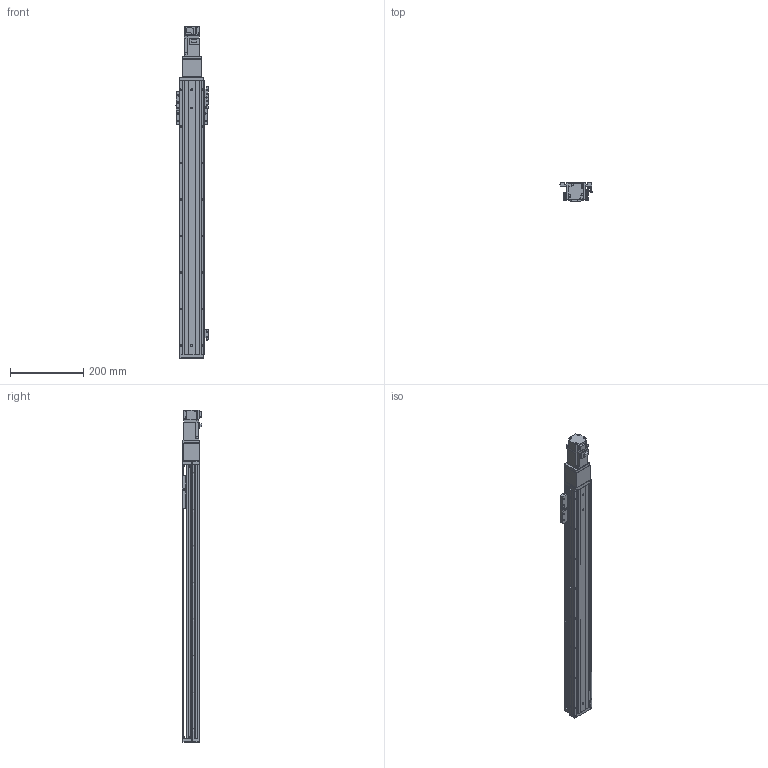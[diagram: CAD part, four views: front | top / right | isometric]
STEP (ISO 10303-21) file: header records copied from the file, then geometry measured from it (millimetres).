
FILE_DESCRIPTION (( 'STEP AP203' ), '1' );
FILE_NAME ('KTHAL60-600-BC-M10-C4L.step', '2022-03-19T08:35:41', ( '微软用户' ), ( '微软中国' ), 'SwSTEP 2.0', 'SolidWorks 2020', '' );
FILE_SCHEMA (( 'CONFIG_CONTROL_DESIGN' ));
Length unit declared in the file: millimetre
Products named in the file (18): GBT 70.1-M3℅6; GBT 70.3-M3℅6; CTHA60-016; EE_SX911P_R; CTHA60-006-2_CTHA60-006-2; KTHA60-001_750; CTHA60-017; CTHA60-027; KTHLA60-002; CTHA60-021; CTHA60-013; KTHA60-004; GBT 70.1-M4×16; HG-KR13（三菱）; KTHA60-005; GBT77-2000M3-3; KTHAL60-600-BC-M10-C4L; GB¨uT 70.2-M3¡Á5_M3¡Á6
Assembly tree (50 placements, depth 2):
  KTHAL60-600-BC-M10-C4L
    KTHA60-001_750
    KTHLA60-002
    KTHA60-004
    KTHA60-005
    GB¨uT 70.2-M3¡Á5_M3¡Á6  x5
    GBT 70.3-M3℅6  x6
    EE_SX911P_R  x3
    CTHA60-017  x3
    CTHA60-021  x2
    GBT 70.1-M4×16  x10
    GBT77-2000M3-3  x6
    GBT 70.1-M3℅6  x6
    CTHA60-016
    CTHA60-006-2_CTHA60-006-2
    CTHA60-027
    CTHA60-013
    HG-KR13（三菱）
Bounding box: 87.82 x 53.3 x 908.6 mm (x, y, z)
Volume: 1606483.5 mm3; surface area: 416248.7 mm2
Topology: 53 solids, 53 shells, 2220 faces, 5274 edges, 3237 vertices
Faces by surface type: plane 1294, cylinder 531, cone 295, torus 86, sphere 14
Entity records: 37358 total; most frequent: CARTESIAN_POINT 6138, DIRECTION 6020, ORIENTED_EDGE 5752, EDGE_CURVE 2876, LINE 2054, VECTOR 2054, AXIS2_PLACEMENT_3D 1983, VERTEX_POINT 1805
